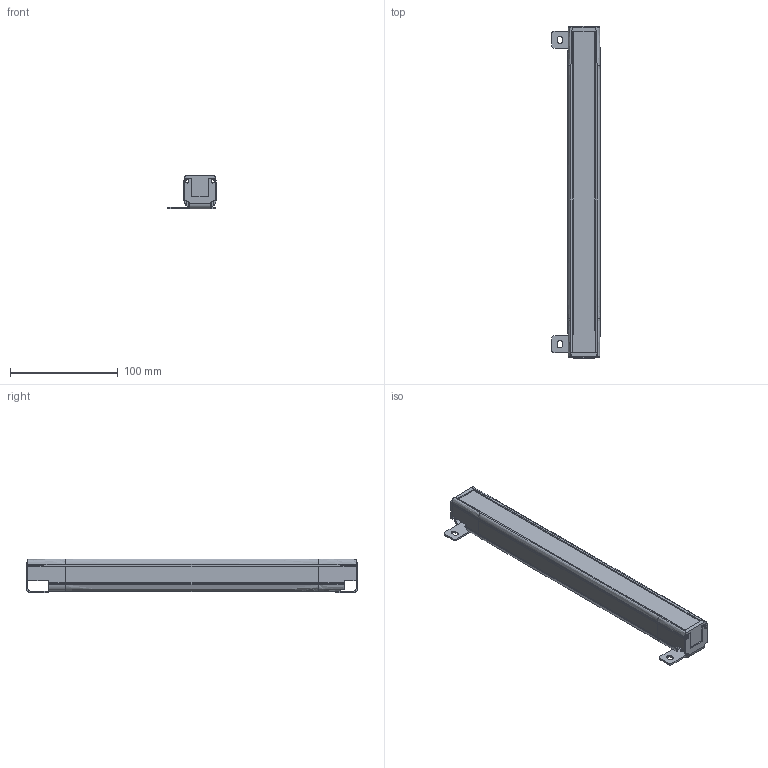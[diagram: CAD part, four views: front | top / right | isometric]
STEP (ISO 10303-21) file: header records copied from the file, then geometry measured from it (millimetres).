
FILE_DESCRIPTION(/* description */ (''),/* implementation_level */ '2;1');
FILE_NAME(/* name */ '3010.stp',/* time_stamp */ '2019-11-29T14:38:15+08:00',/* author */ (''),/* organization */ (''),/* preprocessor_version */ 'ST-DEVELOPER v16',/* originating_system */ 'SIEMENS PLM Software NX 10.0',/* authorisation */ '');
FILE_SCHEMA (('AP203_CONFIGURATION_CONTROLLED_3D_DESIGN_OF_MECHANICAL_PARTS_AND_ASSEMBLIES_MIM_LF { 1 0 10303 403 2 1 2}'));
Length unit declared in the file: millimetre
Products named in the file (1): Admi1B443ED8ikl2
Bounding box: 44.89 x 308.4 x 31.39 mm (x, y, z)
Volume: 95149.7 mm3; surface area: 104269.3 mm2
Topology: 6 solids, 6 shells, 441 faces, 1311 edges, 871 vertices
Faces by surface type: plane 256, cylinder 132, cone 32, bspline 14, extrusion 7
Full cylindrical faces by diameter (mm): 1.5 x2, 3.2 x8, 3.5 x8
Entity records: 15656 total; most frequent: CARTESIAN_POINT 3849, ORIENTED_EDGE 2528, DIRECTION 2314, EDGE_CURVE 1264, VECTOR 856, VERTEX_POINT 855, LINE 849, AXIS2_PLACEMENT_3D 729
